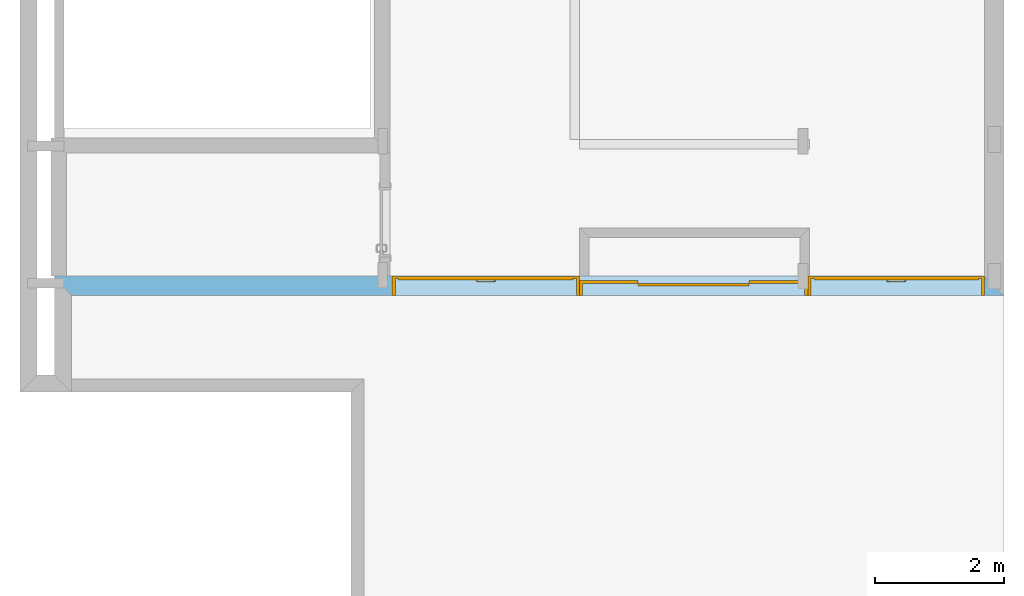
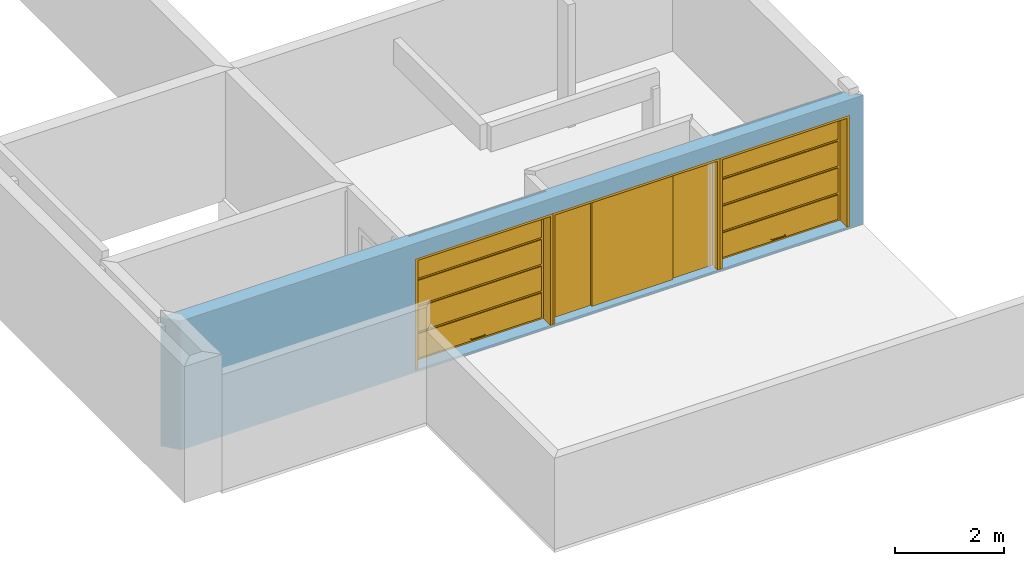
# One storey, part 2 of 2: 3 doors, 3 openings, plus 1 element that does not belong to this part.
"""IFC2X3 building model written with IfcOpenShell, lengths in millimetres."""

from ifc_helpers import new_model, entity, si_unit, converted_unit, money_unit, direction, frame, origin_with_axes, origin_2d_with_axis, place, context, subcontext, project, spatial, polyline, rectangle, outline, extrude, faceted_brep, material, material_list, layer, layer_set, layer_usage, type_object, element, fill, save


model = new_model("IFC2X3")

# Units and contexts
model_context = context("Model", 3, precision=1e-05, world=origin_with_axes(), true_north=direction((0.0, 1.0)))
body_context = subcontext(model_context, "Body", "Model", "MODEL_VIEW")
ifc_project = project(units=[si_unit("LENGTHUNIT", "METRE", prefix="MILLI"), si_unit("AREAUNIT", "SQUARE_METRE"), si_unit("VOLUMEUNIT", "CUBIC_METRE"), converted_unit("PLANEANGLEUNIT", "DEGREE", entity("IfcPlaneAngleMeasure", 0.0174532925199), si_unit("PLANEANGLEUNIT", "RADIAN"), dimensions=[0, 0, 0, 0, 0, 0, 0]), si_unit("SOLIDANGLEUNIT", "STERADIAN"), money_unit("USD"), converted_unit("TIMEUNIT", "Year", entity("IfcTimeMeasure", 31556926.0), si_unit("TIMEUNIT", "SECOND"), dimensions=[0, 0, 0, 0, 0, 0, 0]), si_unit("MASSUNIT", "GRAM"), si_unit("THERMODYNAMICTEMPERATUREUNIT", "DEGREE_CELSIUS"), si_unit("LUMINOUSINTENSITYUNIT", "LUMEN")], contexts=[model_context])

# Site, building, storey
site_placement = place(None, origin_with_axes())
site = spatial("IfcSite", under=ifc_project, at=site_placement, Name="Grove Residential", CompositionType="ELEMENT")
building_placement = place(site_placement, origin_with_axes())
building = spatial("IfcBuilding", under=site, at=building_placement, Name="Building", CompositionType="ELEMENT")
storey_placement = place(building_placement, frame((0.0, 0.0, -3060.0), z_axis=(0.0, 0.0, 1.0), x_axis=(1.0, 0.0, 0.0)))
storey = spatial("IfcBuildingStorey", under=building, at=storey_placement, Name="Basement", CompositionType="ELEMENT", Elevation=-3060.0)

# Wall, openings, doors
ifc_material_1 = material(Name="Stonework wall")
ifc_layer_1 = layer(ifc_material_1, 50.0, ventilated="UNKNOWN")
ifc_material_2 = material(Name="Air Space")
ifc_layer_2 = layer(ifc_material_2, 15.0, ventilated="UNKNOWN")
ifc_material_3 = material(Name="Insulation - Plastic Soft")
ifc_layer_3 = layer(ifc_material_3, 50.0, ventilated="UNKNOWN")
ifc_material_4 = material(Name="Concrete Block")
ifc_layer_4 = layer(ifc_material_4, 150.0, ventilated="UNKNOWN")
ifc_material_5 = material(Name="Air Space - Fixing Zone")
ifc_layer_5 = layer(ifc_material_5, 10.0, ventilated="UNKNOWN")
ifc_material_6 = material(Name="Gypsum Plasterboard")
ifc_layer_6 = layer(ifc_material_6, 12.5, ventilated="UNKNOWN")
ifc_layer_7 = layer(ifc_material_6, 12.5, ventilated="UNKNOWN")
ifc_layer_set = layer_set([ifc_layer_1, ifc_layer_2, ifc_layer_3, ifc_layer_4, ifc_layer_5, ifc_layer_6, ifc_layer_7], Name="EWF - 009")
ifc_layer_usage = layer_usage(ifc_layer_set, "AXIS2", "NEGATIVE", 115.0)
wall_type = type_object("IfcWallType", Name="EWF - 009 300", PredefinedType="NOTDEFINED")
wall_placement = place(storey_placement, frame((10185.0, 1465.0, -50.0), z_axis=(0.0, 0.0, 1.0), x_axis=(-1.0, 0.0, 0.0)))
wall = element("IfcWallStandardCase", 1, at=wall_placement, inside=storey, type_object=wall_type, material=ifc_layer_usage, Name="SW - 001", context=body_context, shape_type="SweptSolid", body=[
    extrude(outline(polyline([(185.0, -185.0), (14650.0, -185.0), (14385.0, 115.0), (-115.0, 115.0), (185.0, -185.0)])), origin_with_axes(), (0.0, 0.0, 1.0), 2900.0),
])
opening_1_placement = place(wall_placement, frame((1560.0, 0.0, 50.0), z_axis=(0.0, 0.0, 1.0), x_axis=(1.0, 0.0, 0.0)))
opening_1 = element("IfcOpeningElement", 2, at=opening_1_placement, cuts=wall, Name="D.07", context=body_context, shape_type="SweptSolid", body=[
    extrude(rectangle(XDim=2750.0, YDim=2500.0, at=origin_2d_with_axis()), frame((0.0, -300.0, 1250.0), z_axis=(0.0, 1.0, 0.0), x_axis=(-1.0, 0.0, 0.0)), (0.0, 0.0, 1.0), 900.0),
    extrude(outline(polyline([(-1375.0, 5000.0), (-1375.0, 2500.0), (1375.0, 2500.0), (1375.0, 5000.0), (-1375.0, 5000.0)])), frame((0.0, -180.0, 0.0), z_axis=(0.0, 1.0, 0.0), x_axis=(-1.0, 0.0, 0.0)), (0.0, 0.0, 1.0), 45.0),
])
opening_2_placement = place(wall_placement, frame((7942.5, 0.0, 50.0), z_axis=(0.0, 0.0, 1.0), x_axis=(1.0, 0.0, 0.0)))
opening_2 = element("IfcOpeningElement", 3, at=opening_2_placement, cuts=wall, Name="D.08", context=body_context, shape_type="SweptSolid", body=[
    extrude(rectangle(XDim=2915.0, YDim=2500.0, at=origin_2d_with_axis()), frame((0.0, -300.0, 1250.0), z_axis=(0.0, 1.0, 0.0), x_axis=(-1.0, 0.0, 0.0)), (0.0, 0.0, 1.0), 900.0),
    extrude(outline(polyline([(-1457.5, 5000.0), (-1457.5, 2500.0), (1457.5, 2500.0), (1457.5, 5000.0), (-1457.5, 5000.0)])), frame((0.0, -180.0, 0.0), z_axis=(0.0, 1.0, 0.0), x_axis=(-1.0, 0.0, 0.0)), (0.0, 0.0, 1.0), 45.0),
])
opening_3_placement = place(wall_placement, frame((4710.0, 0.0, 50.0), z_axis=(0.0, 0.0, 1.0), x_axis=(1.0, 0.0, 0.0)))
opening_3 = element("IfcOpeningElement", 4, at=opening_3_placement, cuts=wall, Name="D.10", context=body_context, shape_type="SweptSolid", body=[
    extrude(rectangle(XDim=3550.0, YDim=2500.0, at=origin_2d_with_axis()), frame((0.0, -300.0, 1250.0), z_axis=(0.0, 1.0, 0.0), x_axis=(-1.0, 0.0, 0.0)), (0.0, 0.0, 1.0), 900.0),
])
ifc_material_7 = material(Name="Background")
ifc_material_8 = material(Name="Air Space")
ifc_material_9 = material(Name="Batt Insulation")
ifc_material_10 = material(Name="Rigid Insulation")
ifc_material_list_1 = material_list([ifc_material_7, ifc_material_8, ifc_material_7, ifc_material_7, ifc_material_7, ifc_material_7, ifc_material_7, ifc_material_9, ifc_material_7, ifc_material_7, ifc_material_10])
door_style_1 = type_object("IfcDoorStyle", Name="Vertical Sliding Garage Door 21", ConstructionType="NOTDEFINED", OperationType="ROLLINGUP", ParameterTakesPrecedence=False, Sizeable=False)
door_1_placement = place(opening_1_placement, frame((1375.0, 0.0, 0.0), z_axis=(0.0, 0.0, 1.0), x_axis=(-1.0, 0.0, 0.0)))
door_1 = element("IfcDoor", 5, at=door_1_placement, inside=storey, type_object=door_style_1, material=ifc_material_list_1, Name="D.07", OverallHeight=2500.0, OverallWidth=2750.0, context=body_context, shape_type="Brep", body=[
    faceted_brep([(0.0, 185.0, 0.0), (50.0, 185.0, 0.0), (50.0, -115.0, 0.0), (0.0, -115.0, 0.0), (0.0, 185.0, 2450.0), (50.0, 185.0, 2450.0), (50.0, -115.0, 2450.0), (0.0, -115.0, 2450.0)], [[[0, 1, 2, 3]], [[0, 4, 5, 1]], [[1, 5, 6, 2]], [[3, 2, 6, 7]], [[4, 0, 3, 7]], [[5, 4, 7, 6]]]),
    faceted_brep([(2750.0, 185.0, 0.0), (2750.0, 185.0, 2450.0), (2750.0, -115.0, 2450.0), (2750.0, -115.0, 0.0), (2700.0, 185.0, 0.0), (2700.0, 185.0, 2450.0), (2700.0, -115.0, 2450.0), (2700.0, -115.0, 0.0)], [[[0, 1, 2, 3]], [[0, 4, 5, 1]], [[1, 5, 6, 2]], [[3, 2, 6, 7]], [[4, 0, 3, 7]], [[5, 4, 7, 6]]]),
    faceted_brep([(0.0, 185.0, 2500.0), (0.0, 185.0, 2450.0), (0.0, -115.0, 2450.0), (0.0, -115.0, 2500.0), (2750.0, 185.0, 2500.0), (2750.0, 185.0, 2450.0), (2700.0, 185.0, 2450.0), (50.0, 185.0, 2450.0), (50.0, -115.0, 2450.0), (2700.0, -115.0, 2450.0), (2750.0, -115.0, 2450.0), (2750.0, -115.0, 2500.0)], [[[0, 1, 2, 3]], [[0, 4, 5, 6, 7, 1]], [[1, 7, 8, 2]], [[3, 2, 8, 9, 10, 11]], [[4, 0, 3, 11]], [[5, 4, 11, 10]], [[6, 5, 10, 9]], [[7, 6, 9, 8]]]),
    faceted_brep([(1229.01923789, 114.5, 107.0), (1225.0, 129.5, 107.0), (1221.5, 129.5, 106.062177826), (1225.98814897, 112.75, 106.062177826), (1232.0503268, 116.25, 106.062177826), (1228.5, 129.5, 106.062177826), (1231.06217783, 129.5, 103.5), (1232.0, 129.5, 100.0), (1231.06217783, 129.5, 96.5), (1228.5, 129.5, 93.9378221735), (1225.0, 129.5, 93.0), (1221.5, 129.5, 93.9378221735), (1218.93782217, 129.5, 96.5), (1218.0, 129.5, 100.0), (1218.93782217, 129.5, 103.5), (1223.76923789, 111.468911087, 103.5), (1240.0, 103.519237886, 107.0), (1238.25, 100.488148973, 106.062177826), (1234.26923789, 117.531088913, 103.5), (1241.75, 106.5503268, 106.062177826), (1235.08141571, 118.0, 100.0), (1234.26923789, 117.531088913, 96.5), (1232.0503268, 116.25, 93.9378221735), (1229.01923789, 114.5, 93.0), (1225.98814897, 112.75, 93.9378221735), (1223.76923789, 111.468911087, 96.5), (1222.95706006, 111.0, 100.0), (1236.96891109, 98.2692378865, 103.5), (1255.0, 99.5, 107.0), (1255.0, 96.0, 106.062177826), (1243.03108891, 108.769237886, 103.5), (1255.0, 103.0, 106.062177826), (1243.5, 109.581415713, 100.0), (1243.03108891, 108.769237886, 96.5), (1241.75, 106.5503268, 93.9378221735), (1240.0, 103.519237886, 93.0), (1238.25, 100.488148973, 93.9378221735), (1236.96891109, 98.2692378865, 96.5), (1236.5, 97.45706006, 100.0), (1255.0, 93.4378221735, 103.5), (1255.0, 92.5, 100.0), (1255.0, 93.4378221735, 96.5), (1255.0, 96.0, 93.9378221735), (1255.0, 99.5, 93.0), (1255.0, 103.0, 93.9378221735), (1255.0, 105.562177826, 96.5), (1255.0, 106.5, 100.0), (1255.0, 105.562177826, 103.5)], [[[0, 1, 2, 3]], [[4, 5, 1, 0]], [[1, 5, 6, 7, 8, 9, 10, 11, 12, 13, 14, 2]], [[3, 2, 14, 15]], [[16, 0, 3, 17]], [[18, 6, 5, 4]], [[19, 4, 0, 16]], [[20, 7, 6, 18]], [[21, 8, 7, 20]], [[22, 9, 8, 21]], [[23, 10, 9, 22]], [[24, 11, 10, 23]], [[25, 12, 11, 24]], [[26, 13, 12, 25]], [[15, 14, 13, 26]], [[17, 3, 15, 27]], [[28, 16, 17, 29]], [[30, 18, 4, 19]], [[31, 19, 16, 28]], [[32, 20, 18, 30]], [[33, 21, 20, 32]], [[34, 22, 21, 33]], [[35, 23, 22, 34]], [[36, 24, 23, 35]], [[37, 25, 24, 36]], [[38, 26, 25, 37]], [[27, 15, 26, 38]], [[29, 17, 27, 39]], [[28, 29, 39, 40, 41, 42, 43, 44, 45, 46, 47, 31]], [[47, 30, 19, 31]], [[46, 32, 30, 47]], [[45, 33, 32, 46]], [[44, 34, 33, 45]], [[43, 35, 34, 44]], [[42, 36, 35, 43]], [[41, 37, 36, 42]], [[40, 38, 37, 41]], [[39, 27, 38, 40]]]),
    faceted_brep([(1520.98076211, 114.5, 93.0), (1525.0, 129.5, 93.0), (1528.5, 129.5, 93.9378221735), (1524.01185103, 112.75, 93.9378221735), (1517.9496732, 116.25, 93.9378221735), (1521.5, 129.5, 93.9378221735), (1518.93782217, 129.5, 96.5), (1518.0, 129.5, 100.0), (1518.93782217, 129.5, 103.5), (1521.5, 129.5, 106.062177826), (1525.0, 129.5, 107.0), (1528.5, 129.5, 106.062177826), (1531.06217783, 129.5, 103.5), (1532.0, 129.5, 100.0), (1531.06217783, 129.5, 96.5), (1526.23076211, 111.468911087, 96.5), (1510.0, 103.519237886, 93.0), (1511.75, 100.488148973, 93.9378221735), (1515.73076211, 117.531088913, 96.5), (1508.25, 106.5503268, 93.9378221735), (1514.91858429, 118.0, 100.0), (1515.73076211, 117.531088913, 103.5), (1517.9496732, 116.25, 106.062177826), (1520.98076211, 114.5, 107.0), (1524.01185103, 112.75, 106.062177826), (1526.23076211, 111.468911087, 103.5), (1527.04293994, 111.0, 100.0), (1513.03108891, 98.2692378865, 96.5), (1495.0, 99.5, 93.0), (1495.0, 96.0, 93.9378221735), (1506.96891109, 108.769237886, 96.5), (1495.0, 103.0, 93.9378221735), (1506.5, 109.581415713, 100.0), (1506.96891109, 108.769237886, 103.5), (1508.25, 106.5503268, 106.062177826), (1510.0, 103.519237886, 107.0), (1511.75, 100.488148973, 106.062177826), (1513.03108891, 98.2692378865, 103.5), (1513.5, 97.45706006, 100.0), (1495.0, 93.4378221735, 96.5), (1495.0, 92.5, 100.0), (1495.0, 93.4378221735, 103.5), (1495.0, 96.0, 106.062177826), (1495.0, 99.5, 107.0), (1495.0, 103.0, 106.062177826), (1495.0, 105.562177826, 103.5), (1495.0, 106.5, 100.0), (1495.0, 105.562177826, 96.5)], [[[0, 1, 2, 3]], [[4, 5, 1, 0]], [[1, 5, 6, 7, 8, 9, 10, 11, 12, 13, 14, 2]], [[3, 2, 14, 15]], [[16, 0, 3, 17]], [[18, 6, 5, 4]], [[19, 4, 0, 16]], [[20, 7, 6, 18]], [[21, 8, 7, 20]], [[22, 9, 8, 21]], [[23, 10, 9, 22]], [[24, 11, 10, 23]], [[25, 12, 11, 24]], [[26, 13, 12, 25]], [[15, 14, 13, 26]], [[17, 3, 15, 27]], [[28, 16, 17, 29]], [[30, 18, 4, 19]], [[31, 19, 16, 28]], [[32, 20, 18, 30]], [[33, 21, 20, 32]], [[34, 22, 21, 33]], [[35, 23, 22, 34]], [[36, 24, 23, 35]], [[37, 25, 24, 36]], [[38, 26, 25, 37]], [[27, 15, 26, 38]], [[29, 17, 27, 39]], [[28, 29, 39, 40, 41, 42, 43, 44, 45, 46, 47, 31]], [[47, 30, 19, 31]], [[46, 32, 30, 47]], [[45, 33, 32, 46]], [[44, 34, 33, 45]], [[43, 35, 34, 44]], [[42, 36, 35, 43]], [[41, 37, 36, 42]], [[40, 38, 37, 41]], [[39, 27, 38, 40]]]),
    faceted_brep([(1495.0, 99.5, 107.0), (1495.0, 103.0, 106.062177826), (1255.0, 103.0, 106.062177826), (1255.0, 99.5, 107.0), (1495.0, 96.0, 106.062177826), (1495.0, 93.4378221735, 103.5), (1495.0, 92.5, 100.0), (1495.0, 93.4378221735, 96.5), (1495.0, 96.0, 93.9378221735), (1495.0, 99.5, 93.0), (1495.0, 103.0, 93.9378221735), (1495.0, 105.562177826, 96.5), (1495.0, 106.5, 100.0), (1495.0, 105.562177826, 103.5), (1255.0, 105.562177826, 103.5), (1255.0, 106.5, 100.0), (1255.0, 105.562177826, 96.5), (1255.0, 103.0, 93.9378221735), (1255.0, 99.5, 93.0), (1255.0, 96.0, 93.9378221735), (1255.0, 93.4378221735, 96.5), (1255.0, 92.5, 100.0), (1255.0, 93.4378221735, 103.5), (1255.0, 96.0, 106.062177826)], [[[0, 1, 2, 3]], [[0, 4, 5, 6, 7, 8, 9, 10, 11, 12, 13, 1]], [[1, 13, 14, 2]], [[3, 2, 14, 15, 16, 17, 18, 19, 20, 21, 22, 23]], [[4, 0, 3, 23]], [[5, 4, 23, 22]], [[6, 5, 22, 21]], [[7, 6, 21, 20]], [[8, 7, 20, 19]], [[9, 8, 19, 18]], [[10, 9, 18, 17]], [[11, 10, 17, 16]], [[12, 11, 16, 15]], [[13, 12, 15, 14]]]),
    faceted_brep([(2700.0, 179.5, 0.0), (2700.0, 149.5, 0.0), (50.0, 149.5, 0.0), (50.0, 179.5, 0.0), (2700.0, 179.5, 2450.0), (2700.0, 149.5, 2450.0), (50.0, 149.5, 2450.0), (50.0, 179.5, 2450.0)], [[[0, 1, 2, 3]], [[4, 5, 1, 0]], [[1, 5, 6, 2]], [[3, 2, 6, 7]], [[0, 3, 7, 4]], [[7, 6, 5, 4]]]),
    faceted_brep([(100.0, 149.5, 50.0), (100.0, 149.5, 600.0), (2650.0, 149.5, 600.0), (2650.0, 149.5, 50.0), (100.0, 129.5, 50.0), (100.0, 129.5, 600.0), (2650.0, 129.5, 600.0), (2650.0, 129.5, 50.0)], [[[0, 1, 2, 3]], [[0, 4, 5, 1]], [[1, 5, 6, 2]], [[2, 6, 7, 3]], [[3, 7, 4, 0]], [[7, 6, 5, 4]]]),
    faceted_brep([(100.0, 149.5, 650.0), (100.0, 149.5, 1200.0), (2650.0, 149.5, 1200.0), (2650.0, 149.5, 650.0), (100.0, 129.5, 650.0), (100.0, 129.5, 1200.0), (2650.0, 129.5, 1200.0), (2650.0, 129.5, 650.0)], [[[0, 1, 2, 3]], [[0, 4, 5, 1]], [[1, 5, 6, 2]], [[2, 6, 7, 3]], [[3, 7, 4, 0]], [[7, 6, 5, 4]]]),
    faceted_brep([(100.0, 149.5, 1250.0), (100.0, 149.5, 1800.0), (2650.0, 149.5, 1800.0), (2650.0, 149.5, 1250.0), (100.0, 129.5, 1250.0), (100.0, 129.5, 1800.0), (2650.0, 129.5, 1800.0), (2650.0, 129.5, 1250.0)], [[[0, 1, 2, 3]], [[0, 4, 5, 1]], [[1, 5, 6, 2]], [[2, 6, 7, 3]], [[3, 7, 4, 0]], [[7, 6, 5, 4]]]),
    faceted_brep([(100.0, 149.5, 1850.0), (100.0, 149.5, 2400.0), (2650.0, 149.5, 2400.0), (2650.0, 149.5, 1850.0), (100.0, 129.5, 1850.0), (100.0, 129.5, 2400.0), (2650.0, 129.5, 2400.0), (2650.0, 129.5, 1850.0)], [[[0, 1, 2, 3]], [[0, 4, 5, 1]], [[1, 5, 6, 2]], [[2, 6, 7, 3]], [[3, 7, 4, 0]], [[7, 6, 5, 4]]]),
])
fill(opening_1, door_1)
door_2_placement = place(opening_2_placement, frame((1457.5, 0.0, 0.0), z_axis=(0.0, 0.0, 1.0), x_axis=(-1.0, 0.0, 0.0)))
door_2 = element("IfcDoor", 6, at=door_2_placement, inside=storey, type_object=door_style_1, material=ifc_material_list_1, Name="D.08", OverallHeight=2500.0, OverallWidth=2915.0, context=body_context, shape_type="Brep", body=[
    faceted_brep([(0.0, 185.0, 0.0), (50.0, 185.0, 0.0), (50.0, -115.0, 0.0), (0.0, -115.0, 0.0), (0.0, 185.0, 2450.0), (50.0, 185.0, 2450.0), (50.0, -115.0, 2450.0), (0.0, -115.0, 2450.0)], [[[0, 1, 2, 3]], [[0, 4, 5, 1]], [[1, 5, 6, 2]], [[3, 2, 6, 7]], [[4, 0, 3, 7]], [[5, 4, 7, 6]]]),
    faceted_brep([(2915.0, 185.0, 0.0), (2915.0, 185.0, 2450.0), (2915.0, -115.0, 2450.0), (2915.0, -115.0, 0.0), (2865.0, 185.0, 0.0), (2865.0, 185.0, 2450.0), (2865.0, -115.0, 2450.0), (2865.0, -115.0, 0.0)], [[[0, 1, 2, 3]], [[0, 4, 5, 1]], [[1, 5, 6, 2]], [[3, 2, 6, 7]], [[4, 0, 3, 7]], [[5, 4, 7, 6]]]),
    faceted_brep([(0.0, 185.0, 2500.0), (0.0, 185.0, 2450.0), (0.0, -115.0, 2450.0), (0.0, -115.0, 2500.0), (2915.0, 185.0, 2500.0), (2915.0, 185.0, 2450.0), (2865.0, 185.0, 2450.0), (50.0, 185.0, 2450.0), (50.0, -115.0, 2450.0), (2865.0, -115.0, 2450.0), (2915.0, -115.0, 2450.0), (2915.0, -115.0, 2500.0)], [[[0, 1, 2, 3]], [[0, 4, 5, 6, 7, 1]], [[1, 7, 8, 2]], [[3, 2, 8, 9, 10, 11]], [[4, 0, 3, 11]], [[5, 4, 11, 10]], [[6, 5, 10, 9]], [[7, 6, 9, 8]]]),
    faceted_brep([(1311.51923789, 114.5, 107.0), (1307.5, 129.5, 107.0), (1304.0, 129.5, 106.062177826), (1308.48814897, 112.75, 106.062177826), (1314.5503268, 116.25, 106.062177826), (1311.0, 129.5, 106.062177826), (1313.56217783, 129.5, 103.5), (1314.5, 129.5, 100.0), (1313.56217783, 129.5, 96.5), (1311.0, 129.5, 93.9378221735), (1307.5, 129.5, 93.0), (1304.0, 129.5, 93.9378221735), (1301.43782217, 129.5, 96.5), (1300.5, 129.5, 100.0), (1301.43782217, 129.5, 103.5), (1306.26923789, 111.468911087, 103.5), (1322.5, 103.519237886, 107.0), (1320.75, 100.488148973, 106.062177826), (1316.76923789, 117.531088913, 103.5), (1324.25, 106.5503268, 106.062177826), (1317.58141571, 118.0, 100.0), (1316.76923789, 117.531088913, 96.5), (1314.5503268, 116.25, 93.9378221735), (1311.51923789, 114.5, 93.0), (1308.48814897, 112.75, 93.9378221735), (1306.26923789, 111.468911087, 96.5), (1305.45706006, 111.0, 100.0), (1319.46891109, 98.2692378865, 103.5), (1337.5, 99.5, 107.0), (1337.5, 96.0, 106.062177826), (1325.53108891, 108.769237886, 103.5), (1337.5, 103.0, 106.062177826), (1326.0, 109.581415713, 100.0), (1325.53108891, 108.769237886, 96.5), (1324.25, 106.5503268, 93.9378221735), (1322.5, 103.519237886, 93.0), (1320.75, 100.488148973, 93.9378221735), (1319.46891109, 98.2692378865, 96.5), (1319.0, 97.45706006, 100.0), (1337.5, 93.4378221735, 103.5), (1337.5, 92.5, 100.0), (1337.5, 93.4378221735, 96.5), (1337.5, 96.0, 93.9378221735), (1337.5, 99.5, 93.0), (1337.5, 103.0, 93.9378221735), (1337.5, 105.562177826, 96.5), (1337.5, 106.5, 100.0), (1337.5, 105.562177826, 103.5)], [[[0, 1, 2, 3]], [[4, 5, 1, 0]], [[1, 5, 6, 7, 8, 9, 10, 11, 12, 13, 14, 2]], [[3, 2, 14, 15]], [[16, 0, 3, 17]], [[18, 6, 5, 4]], [[19, 4, 0, 16]], [[20, 7, 6, 18]], [[21, 8, 7, 20]], [[22, 9, 8, 21]], [[23, 10, 9, 22]], [[24, 11, 10, 23]], [[25, 12, 11, 24]], [[26, 13, 12, 25]], [[15, 14, 13, 26]], [[17, 3, 15, 27]], [[28, 16, 17, 29]], [[30, 18, 4, 19]], [[31, 19, 16, 28]], [[32, 20, 18, 30]], [[33, 21, 20, 32]], [[34, 22, 21, 33]], [[35, 23, 22, 34]], [[36, 24, 23, 35]], [[37, 25, 24, 36]], [[38, 26, 25, 37]], [[27, 15, 26, 38]], [[29, 17, 27, 39]], [[28, 29, 39, 40, 41, 42, 43, 44, 45, 46, 47, 31]], [[47, 30, 19, 31]], [[46, 32, 30, 47]], [[45, 33, 32, 46]], [[44, 34, 33, 45]], [[43, 35, 34, 44]], [[42, 36, 35, 43]], [[41, 37, 36, 42]], [[40, 38, 37, 41]], [[39, 27, 38, 40]]]),
    faceted_brep([(1603.48076211, 114.5, 93.0), (1607.5, 129.5, 93.0), (1611.0, 129.5, 93.9378221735), (1606.51185103, 112.75, 93.9378221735), (1600.4496732, 116.25, 93.9378221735), (1604.0, 129.5, 93.9378221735), (1601.43782217, 129.5, 96.5), (1600.5, 129.5, 100.0), (1601.43782217, 129.5, 103.5), (1604.0, 129.5, 106.062177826), (1607.5, 129.5, 107.0), (1611.0, 129.5, 106.062177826), (1613.56217783, 129.5, 103.5), (1614.5, 129.5, 100.0), (1613.56217783, 129.5, 96.5), (1608.73076211, 111.468911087, 96.5), (1592.5, 103.519237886, 93.0), (1594.25, 100.488148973, 93.9378221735), (1598.23076211, 117.531088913, 96.5), (1590.75, 106.5503268, 93.9378221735), (1597.41858429, 118.0, 100.0), (1598.23076211, 117.531088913, 103.5), (1600.4496732, 116.25, 106.062177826), (1603.48076211, 114.5, 107.0), (1606.51185103, 112.75, 106.062177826), (1608.73076211, 111.468911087, 103.5), (1609.54293994, 111.0, 100.0), (1595.53108891, 98.2692378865, 96.5), (1577.5, 99.5, 93.0), (1577.5, 96.0, 93.9378221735), (1589.46891109, 108.769237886, 96.5), (1577.5, 103.0, 93.9378221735), (1589.0, 109.581415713, 100.0), (1589.46891109, 108.769237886, 103.5), (1590.75, 106.5503268, 106.062177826), (1592.5, 103.519237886, 107.0), (1594.25, 100.488148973, 106.062177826), (1595.53108891, 98.2692378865, 103.5), (1596.0, 97.45706006, 100.0), (1577.5, 93.4378221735, 96.5), (1577.5, 92.5, 100.0), (1577.5, 93.4378221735, 103.5), (1577.5, 96.0, 106.062177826), (1577.5, 99.5, 107.0), (1577.5, 103.0, 106.062177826), (1577.5, 105.562177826, 103.5), (1577.5, 106.5, 100.0), (1577.5, 105.562177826, 96.5)], [[[0, 1, 2, 3]], [[4, 5, 1, 0]], [[1, 5, 6, 7, 8, 9, 10, 11, 12, 13, 14, 2]], [[3, 2, 14, 15]], [[16, 0, 3, 17]], [[18, 6, 5, 4]], [[19, 4, 0, 16]], [[20, 7, 6, 18]], [[21, 8, 7, 20]], [[22, 9, 8, 21]], [[23, 10, 9, 22]], [[24, 11, 10, 23]], [[25, 12, 11, 24]], [[26, 13, 12, 25]], [[15, 14, 13, 26]], [[17, 3, 15, 27]], [[28, 16, 17, 29]], [[30, 18, 4, 19]], [[31, 19, 16, 28]], [[32, 20, 18, 30]], [[33, 21, 20, 32]], [[34, 22, 21, 33]], [[35, 23, 22, 34]], [[36, 24, 23, 35]], [[37, 25, 24, 36]], [[38, 26, 25, 37]], [[27, 15, 26, 38]], [[29, 17, 27, 39]], [[28, 29, 39, 40, 41, 42, 43, 44, 45, 46, 47, 31]], [[47, 30, 19, 31]], [[46, 32, 30, 47]], [[45, 33, 32, 46]], [[44, 34, 33, 45]], [[43, 35, 34, 44]], [[42, 36, 35, 43]], [[41, 37, 36, 42]], [[40, 38, 37, 41]], [[39, 27, 38, 40]]]),
    faceted_brep([(1577.5, 99.5, 107.0), (1577.5, 103.0, 106.062177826), (1337.5, 103.0, 106.062177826), (1337.5, 99.5, 107.0), (1577.5, 96.0, 106.062177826), (1577.5, 93.4378221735, 103.5), (1577.5, 92.5, 100.0), (1577.5, 93.4378221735, 96.5), (1577.5, 96.0, 93.9378221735), (1577.5, 99.5, 93.0), (1577.5, 103.0, 93.9378221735), (1577.5, 105.562177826, 96.5), (1577.5, 106.5, 100.0), (1577.5, 105.562177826, 103.5), (1337.5, 105.562177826, 103.5), (1337.5, 106.5, 100.0), (1337.5, 105.562177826, 96.5), (1337.5, 103.0, 93.9378221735), (1337.5, 99.5, 93.0), (1337.5, 96.0, 93.9378221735), (1337.5, 93.4378221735, 96.5), (1337.5, 92.5, 100.0), (1337.5, 93.4378221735, 103.5), (1337.5, 96.0, 106.062177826)], [[[0, 1, 2, 3]], [[0, 4, 5, 6, 7, 8, 9, 10, 11, 12, 13, 1]], [[1, 13, 14, 2]], [[3, 2, 14, 15, 16, 17, 18, 19, 20, 21, 22, 23]], [[4, 0, 3, 23]], [[5, 4, 23, 22]], [[6, 5, 22, 21]], [[7, 6, 21, 20]], [[8, 7, 20, 19]], [[9, 8, 19, 18]], [[10, 9, 18, 17]], [[11, 10, 17, 16]], [[12, 11, 16, 15]], [[13, 12, 15, 14]]]),
    faceted_brep([(2865.0, 179.5, 0.0), (2865.0, 149.5, 0.0), (50.0, 149.5, 0.0), (50.0, 179.5, 0.0), (2865.0, 179.5, 2450.0), (2865.0, 149.5, 2450.0), (50.0, 149.5, 2450.0), (50.0, 179.5, 2450.0)], [[[0, 1, 2, 3]], [[4, 5, 1, 0]], [[1, 5, 6, 2]], [[3, 2, 6, 7]], [[0, 3, 7, 4]], [[7, 6, 5, 4]]]),
    faceted_brep([(100.0, 149.5, 50.0), (100.0, 149.5, 600.0), (2815.0, 149.5, 600.0), (2815.0, 149.5, 50.0), (100.0, 129.5, 50.0), (100.0, 129.5, 600.0), (2815.0, 129.5, 600.0), (2815.0, 129.5, 50.0)], [[[0, 1, 2, 3]], [[0, 4, 5, 1]], [[1, 5, 6, 2]], [[2, 6, 7, 3]], [[3, 7, 4, 0]], [[7, 6, 5, 4]]]),
    faceted_brep([(100.0, 149.5, 650.0), (100.0, 149.5, 1200.0), (2815.0, 149.5, 1200.0), (2815.0, 149.5, 650.0), (100.0, 129.5, 650.0), (100.0, 129.5, 1200.0), (2815.0, 129.5, 1200.0), (2815.0, 129.5, 650.0)], [[[0, 1, 2, 3]], [[0, 4, 5, 1]], [[1, 5, 6, 2]], [[2, 6, 7, 3]], [[3, 7, 4, 0]], [[7, 6, 5, 4]]]),
    faceted_brep([(100.0, 149.5, 1250.0), (100.0, 149.5, 1800.0), (2815.0, 149.5, 1800.0), (2815.0, 149.5, 1250.0), (100.0, 129.5, 1250.0), (100.0, 129.5, 1800.0), (2815.0, 129.5, 1800.0), (2815.0, 129.5, 1250.0)], [[[0, 1, 2, 3]], [[0, 4, 5, 1]], [[1, 5, 6, 2]], [[2, 6, 7, 3]], [[3, 7, 4, 0]], [[7, 6, 5, 4]]]),
    faceted_brep([(100.0, 149.5, 1850.0), (100.0, 149.5, 2400.0), (2815.0, 149.5, 2400.0), (2815.0, 149.5, 1850.0), (100.0, 129.5, 1850.0), (100.0, 129.5, 2400.0), (2815.0, 129.5, 2400.0), (2815.0, 129.5, 1850.0)], [[[0, 1, 2, 3]], [[0, 4, 5, 1]], [[1, 5, 6, 2]], [[2, 6, 7, 3]], [[3, 7, 4, 0]], [[7, 6, 5, 4]]]),
])
fill(opening_2, door_2)
ifc_material_11 = material(Name="Foreground")
ifc_material_list_2 = material_list([ifc_material_7, ifc_material_8, ifc_material_11, ifc_material_7, ifc_material_7, ifc_material_7, ifc_material_7, ifc_material_10, ifc_material_7, ifc_material_7, ifc_material_7, ifc_material_7, ifc_material_8, ifc_material_7, ifc_material_9, ifc_material_7])
door_style_2 = type_object("IfcDoorStyle", Name="Sliding Door 21", ConstructionType="NOTDEFINED", OperationType="USERDEFINED", ParameterTakesPrecedence=False, Sizeable=False)
door_3_placement = place(opening_3_placement, frame((1775.0, 0.0, 0.0), z_axis=(0.0, 0.0, 1.0), x_axis=(-1.0, 0.0, 0.0)))
door_3 = element("IfcDoor", 7, at=door_3_placement, inside=storey, type_object=door_style_2, material=ifc_material_list_2, Name="D.10", OverallHeight=2500.0, OverallWidth=3550.0, context=body_context, shape_type="Brep", body=[
    faceted_brep([(0.0, 115.0, 0.0), (50.0, 115.0, 0.0), (50.0, -115.0, 0.0), (0.0, -115.0, 0.0), (0.0, 115.0, 2450.0), (50.0, 115.0, 2450.0), (50.0, -115.0, 2450.0), (0.0, -115.0, 2450.0)], [[[0, 1, 2, 3]], [[0, 4, 5, 1]], [[1, 5, 6, 2]], [[3, 2, 6, 7]], [[4, 0, 3, 7]], [[5, 4, 7, 6]]]),
    faceted_brep([(3550.0, 115.0, 0.0), (3550.0, 115.0, 2450.0), (3550.0, -115.0, 2450.0), (3550.0, -115.0, 0.0), (3500.0, 115.0, 0.0), (3500.0, 115.0, 2450.0), (3500.0, -115.0, 2450.0), (3500.0, -115.0, 0.0)], [[[0, 1, 2, 3]], [[0, 4, 5, 1]], [[1, 5, 6, 2]], [[3, 2, 6, 7]], [[4, 0, 3, 7]], [[5, 4, 7, 6]]]),
    faceted_brep([(0.0, 115.0, 2500.0), (0.0, 115.0, 2450.0), (0.0, -115.0, 2450.0), (0.0, -115.0, 2500.0), (3550.0, 115.0, 2500.0), (3550.0, 115.0, 2450.0), (3500.0, 115.0, 2450.0), (50.0, 115.0, 2450.0), (50.0, -115.0, 2450.0), (3500.0, -115.0, 2450.0), (3550.0, -115.0, 2450.0), (3550.0, -115.0, 2500.0)], [[[0, 1, 2, 3]], [[0, 4, 5, 6, 7, 1]], [[1, 7, 8, 2]], [[3, 2, 8, 9, 10, 11]], [[4, 0, 3, 11]], [[5, 4, 11, 10]], [[6, 5, 10, 9]], [[7, 6, 9, 8]]]),
    faceted_brep([(912.5, 115.0, 0.0), (912.5, 75.0, 0.0), (50.0, 75.0, 0.0), (50.0, 115.0, 0.0), (912.5, 115.0, 2450.0), (912.5, 75.0, 2450.0), (50.0, 75.0, 2450.0), (50.0, 115.0, 2450.0)], [[[0, 1, 2, 3]], [[4, 5, 1, 0]], [[1, 5, 6, 2]], [[3, 2, 6, 7]], [[0, 3, 7, 4]], [[7, 6, 5, 4]]]),
    faceted_brep([(912.5, 75.0, 0.0), (1775.0, 75.0, 0.0), (1775.0, 35.0, 0.0), (912.5, 35.0, 0.0), (912.5, 75.0, 2450.0), (1775.0, 75.0, 2450.0), (1775.0, 35.0, 2450.0), (912.5, 35.0, 2450.0)], [[[0, 1, 2, 3]], [[0, 4, 5, 1]], [[1, 5, 6, 2]], [[3, 2, 6, 7]], [[4, 0, 3, 7]], [[5, 4, 7, 6]]]),
    faceted_brep([(2637.5, 115.0, 0.0), (3500.0, 115.0, 0.0), (3500.0, 75.0, 0.0), (2637.5, 75.0, 0.0), (2637.5, 115.0, 2450.0), (3500.0, 115.0, 2450.0), (3500.0, 75.0, 2450.0), (2637.5, 75.0, 2450.0)], [[[0, 1, 2, 3]], [[0, 4, 5, 1]], [[1, 5, 6, 2]], [[3, 2, 6, 7]], [[4, 0, 3, 7]], [[5, 4, 7, 6]]]),
    faceted_brep([(2637.5, 75.0, 0.0), (2637.5, 35.0, 0.0), (1775.0, 35.0, 0.0), (1775.0, 75.0, 0.0), (2637.5, 75.0, 2450.0), (2637.5, 35.0, 2450.0), (1775.0, 35.0, 2450.0), (1775.0, 75.0, 2450.0)], [[[0, 1, 2, 3]], [[4, 5, 1, 0]], [[1, 5, 6, 2]], [[3, 2, 6, 7]], [[0, 3, 7, 4]], [[7, 6, 5, 4]]]),
])
fill(opening_3, door_3)

save(model, "model.ifc")
